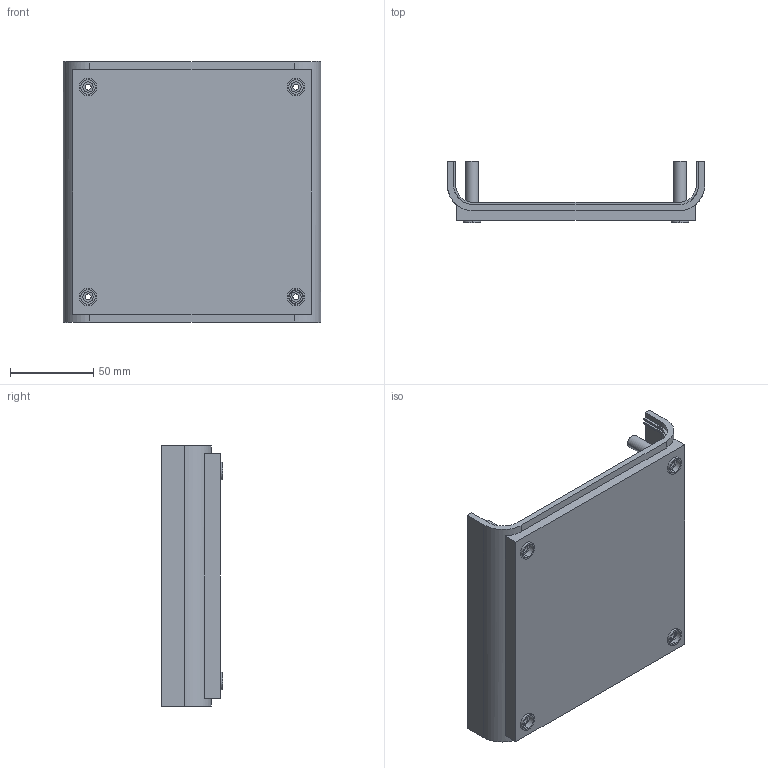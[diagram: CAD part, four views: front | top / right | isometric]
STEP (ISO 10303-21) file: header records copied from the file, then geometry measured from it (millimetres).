
FILE_DESCRIPTION (( 'STEP AP214' ), '1' );
FILE_NAME ('Cuerpo PP79 B.STEP', '2016-09-22T09:36:50', ( 'aaa' ), ( '' ), 'SwSTEP 2.0', 'SolidWorks 2013', '' );
FILE_SCHEMA (( 'AUTOMOTIVE_DESIGN' ));
Length unit declared in the file: millimetre
Products named in the file (1): Cuerpo PP79 B
Bounding box: 155 x 37 x 157 mm (x, y, z)
Volume: 112041.9 mm3; surface area: 82641.1 mm2
Topology: 1 solids, 1 shells, 260 faces, 628 edges, 416 vertices
Faces by surface type: plane 136, cylinder 116, torus 8
Entity records: 7702 total; most frequent: DIRECTION 1386, CARTESIAN_POINT 1329, ORIENTED_EDGE 1256, EDGE_CURVE 628, AXIS2_PLACEMENT_3D 505, VERTEX_POINT 416, LINE 376, VECTOR 376
